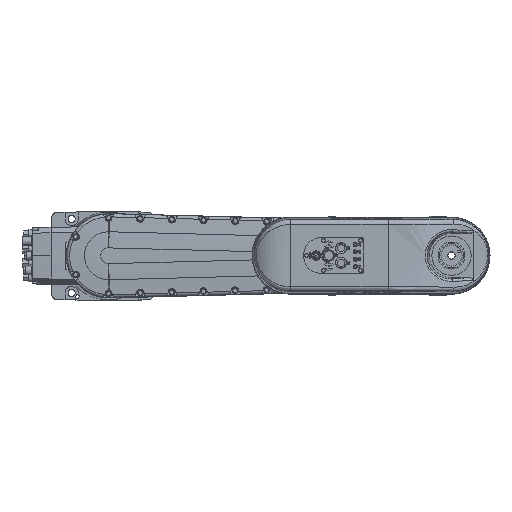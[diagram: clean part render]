
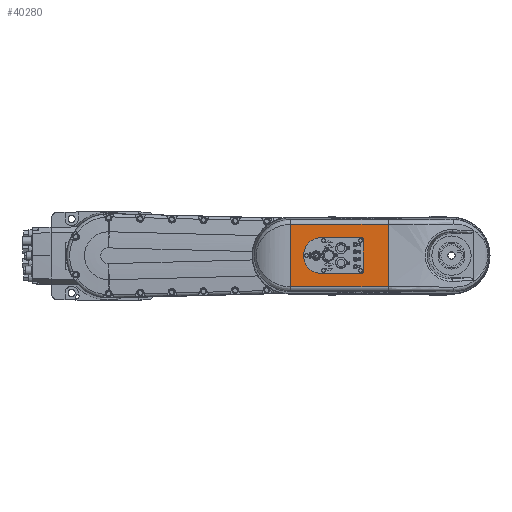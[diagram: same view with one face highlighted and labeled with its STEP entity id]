
A CAD part, top view. The second image highlights one B-rep face of the part: STEP entity #40280.
In plain terms, the highlighted planar face has unit normal (0, 0, 1).
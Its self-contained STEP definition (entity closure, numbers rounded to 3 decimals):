
#617 = EDGE_LOOP ( 'NONE', ( #34445, #29326, #62505, #51631, #82006, #10486 ) ) ;
#1300 = DIRECTION ( 'NONE',  ( 0., 0., 1. ) ) ;
#1947 = ORIENTED_EDGE ( 'NONE', *, *, #61386, .T. ) ;
#3433 = CARTESIAN_POINT ( 'NONE',  ( 482.5, 33.172, 457.7 ) ) ;
#3514 = ORIENTED_EDGE ( 'NONE', *, *, #14817, .T. ) ;
#5532 = CARTESIAN_POINT ( 'NONE',  ( 481.672, -34., 457.7 ) ) ;
#6774 = CARTESIAN_POINT ( 'NONE',  ( 345., 0., 457.7 ) ) ;
#7765 = EDGE_CURVE ( 'NONE', #88698, #35607, #37952, .T. ) ;
#8832 = CARTESIAN_POINT ( 'NONE',  ( 480.501, -34., 457.7 ) ) ;
#9581 = VECTOR ( 'NONE', #24949, 1000. ) ;
#10486 = ORIENTED_EDGE ( 'NONE', *, *, #28240, .F. ) ;
#10686 = CARTESIAN_POINT ( 'NONE',  ( 530., -705.455, 457.7 ) ) ;
#13560 = LINE ( 'NONE', #10686, #29031 ) ;
#14104 = PLANE ( 'NONE',  #28660 ) ;
#14817 = EDGE_CURVE ( 'NONE', #72222, #57901, #59733, .T. ) ;
#15341 = LINE ( 'NONE', #35043, #29655 ) ;
#16456 = EDGE_CURVE ( 'NONE', #33951, #57901, #73790, .T. ) ;
#18998 = VERTEX_POINT ( 'NONE', #8832 ) ;
#19177 = VERTEX_POINT ( 'NONE', #60391 ) ;
#19339 = CARTESIAN_POINT ( 'NONE',  ( 482.5, -32.001, 457.7 ) ) ;
#19820 = DIRECTION ( 'NONE',  ( -1., 0., 0. ) ) ;
#19953 = EDGE_CURVE ( 'NONE', #33951, #80534, #49346, .T. ) ;
#21661 = LINE ( 'NONE', #66946, #9581 ) ;
#22707 = FACE_BOUND ( 'NONE', #617, .T. ) ;
#24169 = CARTESIAN_POINT ( 'NONE',  ( 480.501, 34., 457.7 ) ) ;
#24949 = DIRECTION ( 'NONE',  ( -1., 0., 0. ) ) ;
#26855 = CARTESIAN_POINT ( 'NONE',  ( 345., -705.242, 457.7 ) ) ;
#28020 = VECTOR ( 'NONE', #70038, 1000. ) ;
#28240 = EDGE_CURVE ( 'NONE', #80642, #60987, #70846, .T. ) ;
#28660 = AXIS2_PLACEMENT_3D ( 'NONE', #6774, #76732, #62339 ) ;
#29031 = VECTOR ( 'NONE', #65644, 1000. ) ;
#29326 = ORIENTED_EDGE ( 'NONE', *, *, #7765, .T. ) ;
#29655 = VECTOR ( 'NONE', #35338, 1000. ) ;
#32180 = AXIS2_PLACEMENT_3D ( 'NONE', #78964, #1300, #78355 ) ;
#32287 = CARTESIAN_POINT ( 'NONE',  ( 530., 59.156, 457.7 ) ) ;
#33719 =( BOUNDED_CURVE ( )  B_SPLINE_CURVE ( 3, ( #19339, #81618, #5532, #68428 ),
 .UNSPECIFIED., .F., .F. ) 
 B_SPLINE_CURVE_WITH_KNOTS ( ( 4, 4 ),
 ( 2.357, 3.927 ),
 .UNSPECIFIED. ) 
 CURVE ( )  GEOMETRIC_REPRESENTATION_ITEM ( )  RATIONAL_B_SPLINE_CURVE ( ( 1., 0.805, 0.805, 1. ) ) 
 REPRESENTATION_ITEM ( '' )  );
#33951 = VERTEX_POINT ( 'NONE', #45996 ) ;
#34445 = ORIENTED_EDGE ( 'NONE', *, *, #40119, .F. ) ;
#35043 = CARTESIAN_POINT ( 'NONE',  ( 482.5, -34., 457.7 ) ) ;
#35338 = DIRECTION ( 'NONE',  ( 1., 0., 0. ) ) ;
#35607 = VERTEX_POINT ( 'NONE', #85563 ) ;
#37952 =( BOUNDED_CURVE ( )  B_SPLINE_CURVE ( 3, ( #38149, #45876, #3433, #54394 ),
 .UNSPECIFIED., .F., .T. ) 
 B_SPLINE_CURVE_WITH_KNOTS ( ( 4, 4 ),
 ( 2.357, 3.927 ),
 .UNSPECIFIED. ) 
 CURVE ( )  GEOMETRIC_REPRESENTATION_ITEM ( )  RATIONAL_B_SPLINE_CURVE ( ( 1., 0.805, 0.805, 1. ) ) 
 REPRESENTATION_ITEM ( '' )  );
#38149 = CARTESIAN_POINT ( 'NONE',  ( 480.501, 34., 457.7 ) ) ;
#38536 = EDGE_CURVE ( 'NONE', #19177, #35607, #90595, .T. ) ;
#40119 = EDGE_CURVE ( 'NONE', #88698, #80642, #21661, .T. ) ;
#40280 = ADVANCED_FACE ( 'NONE', ( #89635, #22707 ), #14104, .T. ) ;
#41067 = VECTOR ( 'NONE', #19820, 1000. ) ;
#45876 = CARTESIAN_POINT ( 'NONE',  ( 481.672, 34., 457.7 ) ) ;
#45996 = CARTESIAN_POINT ( 'NONE',  ( 345., -59.156, 457.7 ) ) ;
#48356 = CARTESIAN_POINT ( 'NONE',  ( 482.5, 34., 457.7 ) ) ;
#49346 = LINE ( 'NONE', #72783, #84425 ) ;
#50686 = CARTESIAN_POINT ( 'NONE',  ( 530., -59.156, 457.7 ) ) ;
#51631 = ORIENTED_EDGE ( 'NONE', *, *, #70971, .T. ) ;
#54394 = CARTESIAN_POINT ( 'NONE',  ( 482.5, 32.001, 457.7 ) ) ;
#55102 = DIRECTION ( 'NONE',  ( 0., 1., 0. ) ) ;
#56023 = CARTESIAN_POINT ( 'NONE',  ( 345., 59.156, 457.7 ) ) ;
#57901 = VERTEX_POINT ( 'NONE', #56023 ) ;
#59733 = LINE ( 'NONE', #90354, #41067 ) ;
#60391 = CARTESIAN_POINT ( 'NONE',  ( 482.5, -32.001, 457.7 ) ) ;
#60987 = VERTEX_POINT ( 'NONE', #62042 ) ;
#61386 = EDGE_CURVE ( 'NONE', #80534, #72222, #13560, .T. ) ;
#62042 = CARTESIAN_POINT ( 'NONE',  ( 403.5, -34., 457.7 ) ) ;
#62339 = DIRECTION ( 'NONE',  ( 0., -1., 0. ) ) ;
#62505 = ORIENTED_EDGE ( 'NONE', *, *, #38536, .F. ) ;
#65644 = DIRECTION ( 'NONE',  ( 0., 1., 0. ) ) ;
#66946 = CARTESIAN_POINT ( 'NONE',  ( 482.5, 34., 457.7 ) ) ;
#68428 = CARTESIAN_POINT ( 'NONE',  ( 480.501, -34., 457.7 ) ) ;
#70038 = DIRECTION ( 'NONE',  ( 0., 1., 0. ) ) ;
#70846 = CIRCLE ( 'NONE', #32180, 34. ) ;
#70971 = EDGE_CURVE ( 'NONE', #19177, #18998, #33719, .T. ) ;
#72222 = VERTEX_POINT ( 'NONE', #32287 ) ;
#72783 = CARTESIAN_POINT ( 'NONE',  ( 530., -59.156, 457.7 ) ) ;
#73790 = LINE ( 'NONE', #26855, #90228 ) ;
#74402 = EDGE_CURVE ( 'NONE', #60987, #18998, #15341, .T. ) ;
#76732 = DIRECTION ( 'NONE',  ( 0., 0., 1. ) ) ;
#78355 = DIRECTION ( 'NONE',  ( 0., 1., 0. ) ) ;
#78964 = CARTESIAN_POINT ( 'NONE',  ( 403.5, 0., 457.7 ) ) ;
#80534 = VERTEX_POINT ( 'NONE', #50686 ) ;
#80642 = VERTEX_POINT ( 'NONE', #86186 ) ;
#81618 = CARTESIAN_POINT ( 'NONE',  ( 482.5, -33.172, 457.7 ) ) ;
#82006 = ORIENTED_EDGE ( 'NONE', *, *, #74402, .F. ) ;
#83513 = ORIENTED_EDGE ( 'NONE', *, *, #16456, .F. ) ;
#84425 = VECTOR ( 'NONE', #86898, 1000. ) ;
#85563 = CARTESIAN_POINT ( 'NONE',  ( 482.5, 32.001, 457.7 ) ) ;
#86186 = CARTESIAN_POINT ( 'NONE',  ( 403.5, 34., 457.7 ) ) ;
#86701 = ORIENTED_EDGE ( 'NONE', *, *, #19953, .T. ) ;
#86898 = DIRECTION ( 'NONE',  ( 1., 0., 0. ) ) ;
#88698 = VERTEX_POINT ( 'NONE', #24169 ) ;
#89635 = FACE_OUTER_BOUND ( 'NONE', #90310, .T. ) ;
#90228 = VECTOR ( 'NONE', #55102, 1000. ) ;
#90310 = EDGE_LOOP ( 'NONE', ( #1947, #3514, #83513, #86701 ) ) ;
#90354 = CARTESIAN_POINT ( 'NONE',  ( 345., 59.156, 457.7 ) ) ;
#90595 = LINE ( 'NONE', #48356, #28020 ) ;
